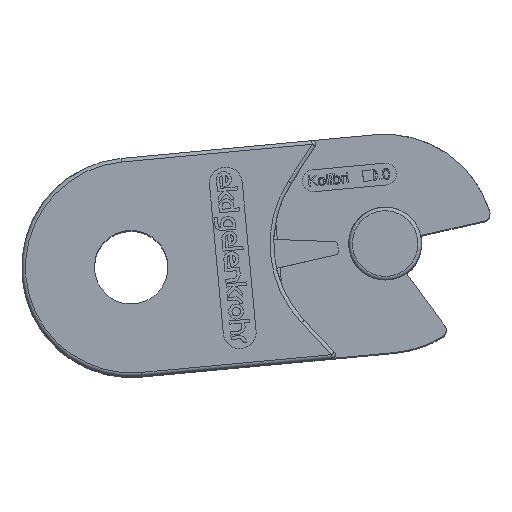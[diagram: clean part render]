
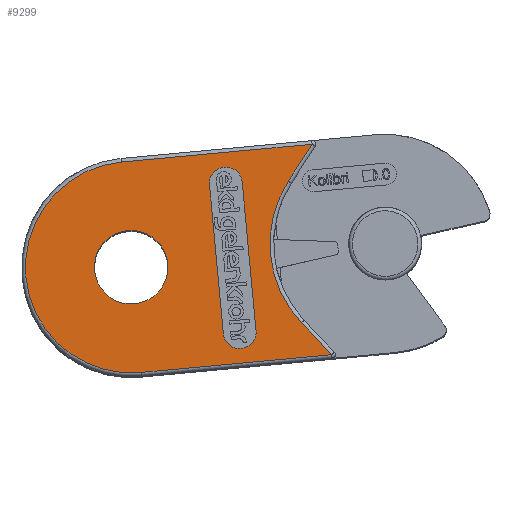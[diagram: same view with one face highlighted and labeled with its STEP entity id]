
A CAD part, top view. The second image highlights one B-rep face of the part: STEP entity #9299.
In plain terms, the highlighted planar face has unit normal (0, 0, 1).
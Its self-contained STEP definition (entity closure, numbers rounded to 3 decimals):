
#9195=CARTESIAN_POINT('',(-67.587,-21.569,13.942));
#9196=DIRECTION('',(0.0,0.0,1.0));
#9197=DIRECTION('',(0.996,0.093,0.0));
#9198=AXIS2_PLACEMENT_3D('',#9195,#9196,#9197);
#9199=PLANE('',#9198);
#9200=CARTESIAN_POINT('',(-57.698,-35.212,13.942));
#9201=VERTEX_POINT('',#9200);
#9202=CARTESIAN_POINT('',(-83.877,-37.649,13.942));
#9203=VERTEX_POINT('',#9202);
#9204=CARTESIAN_POINT('',(-57.698,-35.212,13.942));
#9205=DIRECTION('',(-0.996,-0.093,0.));
#9206=VECTOR('',#9205,26.293);
#9207=LINE('',#9204,#9206);
#9208=EDGE_CURVE('',#9201,#9203,#9207,.T.);
#9209=ORIENTED_EDGE('',*,*,#9208,.F.);
#9210=CARTESIAN_POINT('',(-61.847,-30.829,13.942));
#9211=VERTEX_POINT('',#9210);
#9212=CARTESIAN_POINT('',(-61.847,-30.829,13.942));
#9213=DIRECTION('',(0.687,-0.726,0.));
#9214=VECTOR('',#9213,6.035);
#9215=LINE('',#9212,#9214);
#9216=EDGE_CURVE('',#9211,#9201,#9215,.T.);
#9217=ORIENTED_EDGE('',*,*,#9216,.F.);
#9218=CARTESIAN_POINT('',(-63.654,-11.41,13.942));
#9219=VERTEX_POINT('',#9218);
#9220=CARTESIAN_POINT('',(-50.372,-19.967,13.942));
#9221=DIRECTION('',(0.,0.,1.0));
#9222=DIRECTION('',(-0.996,-0.093,0.));
#9223=AXIS2_PLACEMENT_3D('',#9220,#9221,#9222);
#9224=CIRCLE('',#9223,15.8);
#9225=EDGE_CURVE('',#9219,#9211,#9224,.T.);
#9226=ORIENTED_EDGE('',*,*,#9225,.F.);
#9227=CARTESIAN_POINT('',(-60.386,-6.336,13.942));
#9228=VERTEX_POINT('',#9227);
#9229=CARTESIAN_POINT('',(-60.386,-6.336,13.942));
#9230=DIRECTION('',(-0.542,-0.841,0.));
#9231=VECTOR('',#9230,6.035);
#9232=LINE('',#9229,#9231);
#9233=EDGE_CURVE('',#9228,#9219,#9232,.T.);
#9234=ORIENTED_EDGE('',*,*,#9233,.F.);
#9235=CARTESIAN_POINT('',(-86.566,-8.774,13.942));
#9236=VERTEX_POINT('',#9235);
#9237=CARTESIAN_POINT('',(-86.566,-8.774,13.942));
#9238=DIRECTION('',(0.996,0.093,0.));
#9239=VECTOR('',#9238,26.293);
#9240=LINE('',#9237,#9239);
#9241=EDGE_CURVE('',#9236,#9228,#9240,.T.);
#9242=ORIENTED_EDGE('',*,*,#9241,.F.);
#9243=CARTESIAN_POINT('',(-85.221,-23.211,13.942));
#9244=DIRECTION('',(0.,0.,-1.0));
#9245=DIRECTION('',(-0.996,-0.093,0.));
#9246=AXIS2_PLACEMENT_3D('',#9243,#9244,#9245);
#9247=CIRCLE('',#9246,14.5);
#9248=EDGE_CURVE('',#9203,#9236,#9247,.T.);
#9249=ORIENTED_EDGE('',*,*,#9248,.F.);
#9250=EDGE_LOOP('',(#9209,#9217,#9226,#9234,#9242,#9249));
#9251=FACE_OUTER_BOUND('',#9250,.T.);
#9252=CARTESIAN_POINT('',(-68.089,-31.91,13.942));
#9253=VERTEX_POINT('',#9252);
#9254=CARTESIAN_POINT('',(-72.569,-32.328,13.942));
#9255=VERTEX_POINT('',#9254);
#9256=CARTESIAN_POINT('',(-70.329,-32.119,13.942));
#9257=DIRECTION('',(0.,0.,-1.));
#9258=DIRECTION('',(0.093,-0.996,0.));
#9259=AXIS2_PLACEMENT_3D('',#9256,#9257,#9258);
#9260=CIRCLE('',#9259,2.25);
#9261=EDGE_CURVE('',#9253,#9255,#9260,.T.);
#9262=ORIENTED_EDGE('',*,*,#9261,.T.);
#9263=CARTESIAN_POINT('',(-74.469,-11.916,13.942));
#9264=VERTEX_POINT('',#9263);
#9265=CARTESIAN_POINT('',(-72.569,-32.328,13.942));
#9266=DIRECTION('',(-0.093,0.996,0.));
#9267=VECTOR('',#9266,20.5);
#9268=LINE('',#9265,#9267);
#9269=EDGE_CURVE('',#9255,#9264,#9268,.T.);
#9270=ORIENTED_EDGE('',*,*,#9269,.T.);
#9271=CARTESIAN_POINT('',(-69.989,-11.499,13.942));
#9272=VERTEX_POINT('',#9271);
#9273=CARTESIAN_POINT('',(-72.229,-11.707,13.942));
#9274=DIRECTION('',(0.,0.,-1.));
#9275=DIRECTION('',(0.093,-0.996,0.));
#9276=AXIS2_PLACEMENT_3D('',#9273,#9274,#9275);
#9277=CIRCLE('',#9276,2.25);
#9278=EDGE_CURVE('',#9264,#9272,#9277,.T.);
#9279=ORIENTED_EDGE('',*,*,#9278,.T.);
#9280=CARTESIAN_POINT('',(-69.989,-11.499,13.942));
#9281=DIRECTION('',(0.093,-0.996,0.));
#9282=VECTOR('',#9281,20.5);
#9283=LINE('',#9280,#9282);
#9284=EDGE_CURVE('',#9272,#9253,#9283,.T.);
#9285=ORIENTED_EDGE('',*,*,#9284,.T.);
#9286=EDGE_LOOP('',(#9262,#9270,#9279,#9285));
#9287=FACE_BOUND('',#9286,.T.);
#9288=CARTESIAN_POINT('',(-80.193,-22.743,13.942));
#9289=VERTEX_POINT('',#9288);
#9290=CARTESIAN_POINT('',(-85.221,-23.211,13.942));
#9291=DIRECTION('',(0.,0.,-1.0));
#9292=DIRECTION('',(-0.996,-0.093,0.));
#9293=AXIS2_PLACEMENT_3D('',#9290,#9291,#9292);
#9294=CIRCLE('',#9293,5.05);
#9295=EDGE_CURVE('',#9289,#9289,#9294,.T.);
#9296=ORIENTED_EDGE('',*,*,#9295,.T.);
#9297=EDGE_LOOP('',(#9296));
#9298=FACE_BOUND('',#9297,.T.);
#9299=ADVANCED_FACE('',(#9251,#9287,#9298),#9199,.T.);
